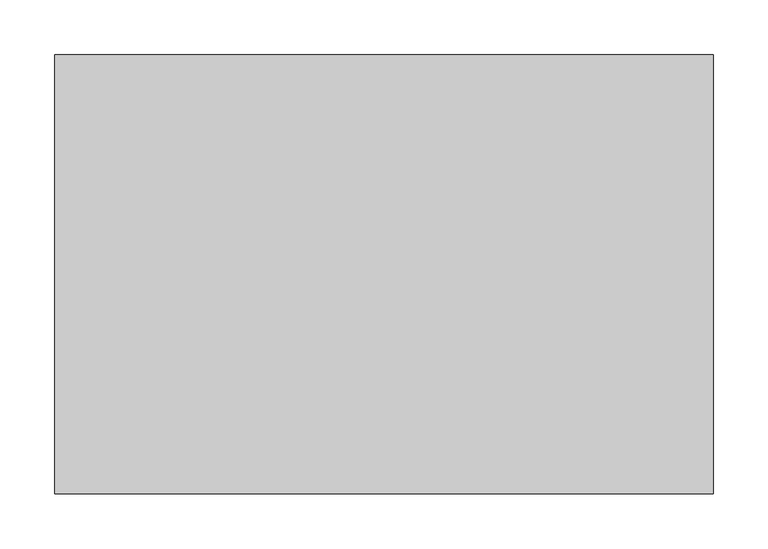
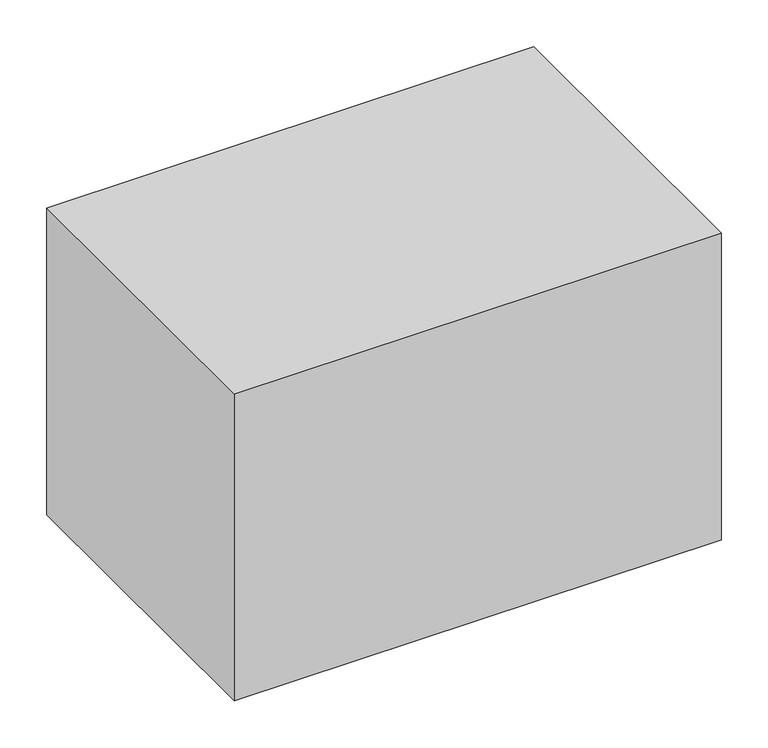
"""IFC4 building model written with IfcOpenShell, lengths in millimetres: proxy geometry, Movél16 : Movél."""

import ifcopenshell
import ifcopenshell.guid

model = None  # the IFC model being written
_history = None  # IfcOwnerHistory: only IFC2X3 demands one
_inside = {}  # id of a spatial element -> (the spatial element, [elements in it])
_under = {}  # id of a project, library or spatial element -> (it, [spatial elements below it])
_declared = {}  # id of a project -> (the project, [libraries it declares])
_typed = {}  # id of a type object -> (the type object, [elements of that type])
_made_of = {}  # id of a material, layer set ... -> (it, [elements and type objects made of it])


def new_model(schema):
    """Start an empty IFC model of exactly this schema.

    Asked for "IFC4X3", IfcOpenShell would pick the latest addendum, in which some entities
    have other attributes; the version numbers below select the first issue.
    IFC2X3 requires an IfcOwnerHistory on every rooted entity: one is made here for all.
    """
    global model, _history
    if schema == "IFC4X3":
        model = ifcopenshell.file(schema_version=(4, 3, 0, 0))
    else:
        model = ifcopenshell.file(schema=schema)
    _inside.clear()
    _under.clear()
    _declared.clear()
    _typed.clear()
    _made_of.clear()
    _history = None
    if model.schema == "IFC2X3":
        org = make("IfcOrganization", Name="unknown")
        user = make(
            "IfcPersonAndOrganization",
            ThePerson=make("IfcPerson", FamilyName="unknown"),
            TheOrganization=org,
        )
        app = make(
            "IfcApplication",
            ApplicationDeveloper=org,
            Version="unknown",
            ApplicationFullName="unknown",
            ApplicationIdentifier="unknown",
        )
        _history = make(
            "IfcOwnerHistory",
            OwningUser=user,
            OwningApplication=app,
            ChangeAction="ADDED",
            CreationDate=0,
        )
    return model


def make(cls, **values):
    """One entity of the class cls with the attributes given. An attribute that is None is left unset."""
    return model.create_entity(
        cls, **{name: value for name, value in values.items() if value is not None}
    )


def rooted(cls, **values):
    """An entity with a GlobalId (a new one), such as an element, a storey or a relation."""
    return make(cls, GlobalId=ifcopenshell.guid.new(), OwnerHistory=_history, **values)


def si_unit(unit_type, name, prefix=None):
    """IfcSIUnit, for example si_unit("LENGTHUNIT", "METRE", prefix="MILLI")."""
    return make("IfcSIUnit", UnitType=unit_type, Prefix=prefix, Name=name)


def assignment(units):
    """IfcUnitAssignment: the units of a project."""
    return None if units is None else make("IfcUnitAssignment", Units=units)


def point(xyz):
    """IfcCartesianPoint."""
    return None if xyz is None else make("IfcCartesianPoint", Coordinates=xyz)


def direction(xyz):
    """IfcDirection."""
    return None if xyz is None else make("IfcDirection", DirectionRatios=xyz)


def frame(location, z_axis=None, x_axis=None):
    """IfcAxis2Placement3D, a coordinate frame: its origin and axes. An axis left out is left unset."""
    return make(
        "IfcAxis2Placement3D",
        Location=point(location),
        Axis=direction(z_axis),
        RefDirection=direction(x_axis),
    )


def origin():
    """The frame at (0, 0, 0) with its axes left unset."""
    return frame((0.0, 0.0, 0.0))


def place(relative_to, where):
    """IfcLocalPlacement: puts the frame where relative to a parent placement (None: the world)."""
    return make(
        "IfcLocalPlacement", PlacementRelTo=relative_to, RelativePlacement=where
    )


def context(
    kind, dimensions, precision=None, world=None, true_north=None, identifier=None
):
    """IfcGeometricRepresentationContext, for example the 3D "Model" context."""
    return make(
        "IfcGeometricRepresentationContext",
        ContextIdentifier=identifier,
        ContextType=kind,
        CoordinateSpaceDimension=dimensions,
        Precision=precision,
        WorldCoordinateSystem=world,
        TrueNorth=true_north,
    )


def project(units=None, contexts=None):
    """IfcProject with its units and contexts."""
    return rooted(
        "IfcProject",
        Name="project",
        RepresentationContexts=contexts,
        UnitsInContext=assignment(units),
    )


def spatial(cls, under=None, at=None, **own):
    """A site, building, storey or space (cls), placed at a placement, below another one or the project."""
    s = rooted(cls, ObjectPlacement=at, **own)
    if under is not None:
        _under.setdefault(under.id(), (under, []))[1].append(s)
    return s


def polyline(points):
    """IfcPolyline through the points."""
    return make("IfcPolyline", Points=[point(p) for p in points])


def outline(outer, holes=None, kind="AREA"):
    """IfcArbitraryClosedProfileDef: a profile drawn as a closed curve; with holes, ...WithVoids."""
    if holes is None:
        return make("IfcArbitraryClosedProfileDef", ProfileType=kind, OuterCurve=outer)
    return make(
        "IfcArbitraryProfileDefWithVoids",
        ProfileType=kind,
        OuterCurve=outer,
        InnerCurves=holes,
    )


def extrude(swept, where, along, depth):
    """IfcExtrudedAreaSolid: the profile swept, set in the frame where, extruded along a direction by depth."""
    return make(
        "IfcExtrudedAreaSolid",
        SweptArea=swept,
        Position=where,
        ExtrudedDirection=direction(along),
        Depth=depth,
    )


def shape(context_of_items, identifier, shape_type, items):
    """IfcShapeRepresentation: the items that make up one representation, for example the "Body"."""
    return make(
        "IfcShapeRepresentation",
        ContextOfItems=context_of_items,
        RepresentationIdentifier=identifier,
        RepresentationType=shape_type,
        Items=items,
    )


def source(mapping_origin, context_of_items, identifier, shape_type, items):
    """IfcRepresentationMap: a shape defined once, which mapped items show again and again."""
    return make(
        "IfcRepresentationMap",
        MappingOrigin=mapping_origin,
        MappedRepresentation=shape(context_of_items, identifier, shape_type, items),
    )


def transform(
    local_origin,
    x_axis=None,
    y_axis=None,
    z_axis=None,
    scale=None,
    scale2=None,
    scale3=None,
    uniform=True,
):
    """IfcCartesianTransformationOperator3D, or its non-uniform kind. x_axis, y_axis, z_axis: its Axis1, 2, 3."""
    if uniform:
        return make(
            "IfcCartesianTransformationOperator3D",
            Axis1=direction(x_axis),
            Axis2=direction(y_axis),
            LocalOrigin=point(local_origin),
            Scale=scale,
            Axis3=direction(z_axis),
        )
    return make(
        "IfcCartesianTransformationOperator3DnonUniform",
        Axis1=direction(x_axis),
        Axis2=direction(y_axis),
        LocalOrigin=point(local_origin),
        Scale=scale,
        Axis3=direction(z_axis),
        Scale2=scale2,
        Scale3=scale3,
    )


def mapped(mapping_source, mapping_target):
    """IfcMappedItem: shows the shape of a source again, moved by a transform."""
    return make(
        "IfcMappedItem", MappingSource=mapping_source, MappingTarget=mapping_target
    )


def made_of(thing, what):
    """Note that an element or type object is made of a material, layer set ...; save() writes the relation."""
    if what is not None:
        _made_of.setdefault(what.id(), (what, []))[1].append(thing)
    return thing


def element(
    cls,
    number,
    at=None,
    inside=None,
    cuts=None,
    type_object=None,
    material=None,
    context=None,
    identifier="Body",
    shape_type=None,
    held_by="IfcProductDefinitionShape",
    body=None,
    shapes=None,
    **own,
):
    """One element of the class cls, such as IfcWall. Its Tag is "e" and its number.

    at: its placement. inside: the storey or other place that contains it. cuts: it is an
    opening in that element (IfcRelVoidsElement). A single representation is given by context,
    identifier, shape_type and body (its items); several are given by shapes. held_by: the class
    of the entity that holds the representations. save() writes the other relations.
    """
    e = rooted(cls, Tag="e%d" % number, ObjectPlacement=at, **own)
    if body is not None:
        shapes = [shape(context, identifier, shape_type, body)]
    if shapes is not None:
        e.Representation = make(held_by, Representations=shapes)
    if inside is not None:
        _inside.setdefault(inside.id(), (inside, []))[1].append(e)
    if cuts is not None:
        rooted(
            "IfcRelVoidsElement", RelatingBuildingElement=cuts, RelatedOpeningElement=e
        )
    if type_object is not None:
        _typed.setdefault(type_object.id(), (type_object, []))[1].append(e)
    return made_of(e, material)


def aggregate(whole, parts):
    """IfcRelAggregates: a whole, such as a stair, and the parts it consists of."""
    return rooted("IfcRelAggregates", RelatingObject=whole, RelatedObjects=parts)


def save(model, path):
    """Write the relations noted so far, then the file.

    IfcRelAggregates (storeys below a building ...), IfcRelContainedInSpatialStructure (elements
    in a storey), IfcRelDefinesByType, IfcRelAssociatesMaterial and IfcRelDeclares: one each for
    every whole, place, type object, material and project.
    """
    for whole, parts in _under.values():
        aggregate(whole, parts)
    for where, things in _inside.values():
        rooted(
            "IfcRelContainedInSpatialStructure",
            RelatedElements=things,
            RelatingStructure=where,
        )
    for kind, things in _typed.values():
        rooted("IfcRelDefinesByType", RelatedObjects=things, RelatingType=kind)
    for what, things in _made_of.values():
        rooted("IfcRelAssociatesMaterial", RelatedObjects=things, RelatingMaterial=what)
    for by, libraries in _declared.values():
        rooted("IfcRelDeclares", RelatingContext=by, RelatedDefinitions=libraries)
    model.write(path)


def generic_models_bbaf67e3(model_context):
    return source(origin(), model_context, "Body", "SweptSolid", [
        extrude(outline(polyline([(19488.6646378, 16442.1029258), (19488.6646378, 16042.1029258), (18888.6646378, 16042.1029258), (18888.6646378, 16442.1029258), (19488.6646378, 16442.1029258)])), frame((0.0, 0.0, 400.0), z_axis=(0.0, 0.0, 1.0), x_axis=(1.0, 0.0, 0.0)), (0.0, 0.0, 1.0), 400.0),
    ])


if __name__ == "__main__":
    model = new_model("IFC4")
    model_context = context("Model", 3, world=origin())
    ifc_project = project(units=[si_unit("LENGTHUNIT", "METRE", prefix="MILLI")], contexts=[model_context])
    site = spatial("IfcSite", under=ifc_project)
    building = spatial("IfcBuilding", under=site)
    placement = place(None, origin())
    generic_models_shape = generic_models_bbaf67e3(model_context)
    element("IfcBuildingElementProxy", 1, Name="Movél16 : Movél", ObjectType="Movél16 : Movél", at=placement, inside=building, context=model_context, shape_type="MappedRepresentation", body=[
        mapped(generic_models_shape, transform((0.0, 0.0, 0.0), x_axis=(1.0, 0.0, 0.0), y_axis=(0.0, 1.0, 0.0), z_axis=(0.0, 0.0, 1.0))),
    ])
    save(model, "model.ifc")
